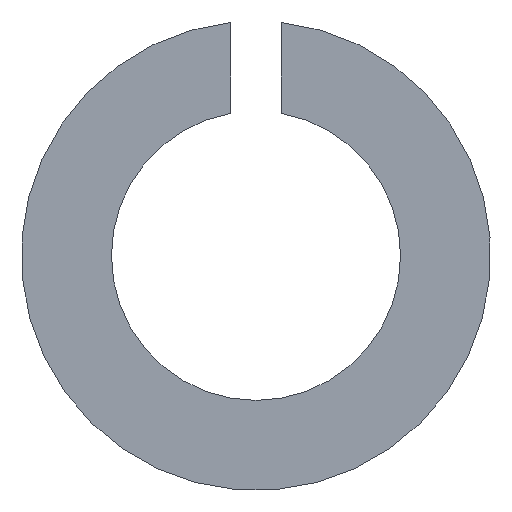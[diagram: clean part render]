
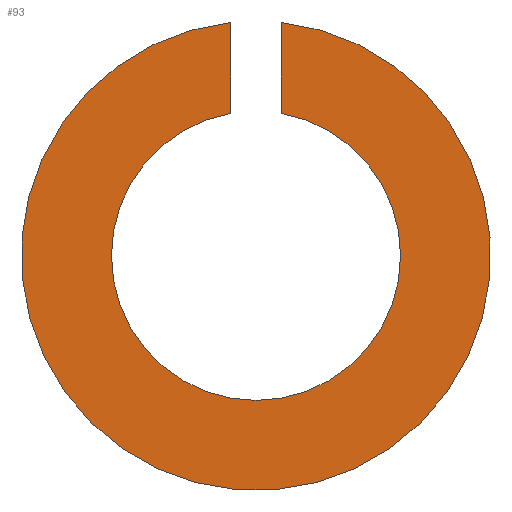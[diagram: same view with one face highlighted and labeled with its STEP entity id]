
A CAD part, left-side view. The second image highlights one B-rep face of the part: STEP entity #93.
In plain terms, the highlighted planar face has unit normal (-1, 0, 0).
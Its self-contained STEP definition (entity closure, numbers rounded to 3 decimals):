
#7 = ORIENTED_EDGE ( 'NONE', *, *, #123, .T. ) ;
#10 = VECTOR ( 'NONE', #178, 1000. ) ;
#11 = CARTESIAN_POINT ( 'NONE',  ( 37.6, 28., -81. ) ) ;
#13 = EDGE_LOOP ( 'NONE', ( #7, #138, #126, #84 ) ) ;
#14 = FACE_OUTER_BOUND ( 'NONE', #13, .T. ) ;
#20 = VERTEX_POINT ( 'NONE', #34 ) ;
#22 = DIRECTION ( 'NONE',  ( 0., 1., 0. ) ) ;
#34 = CARTESIAN_POINT ( 'NONE',  ( 37.6, 28.533, -77.997 ) ) ;
#46 = CARTESIAN_POINT ( 'NONE',  ( 37.6, 28.533, -76.079 ) ) ;
#55 = AXIS2_PLACEMENT_3D ( 'NONE', #11, #72, #211 ) ;
#57 = DIRECTION ( 'NONE',  ( 0., 0., 1. ) ) ;
#64 = CARTESIAN_POINT ( 'NONE',  ( 37.6, 28., -81. ) ) ;
#72 = DIRECTION ( 'NONE',  ( 1., 0., 0. ) ) ;
#84 = ORIENTED_EDGE ( 'NONE', *, *, #240, .T. ) ;
#90 = CIRCLE ( 'NONE', #55, 4.95 ) ;
#93 = ADVANCED_FACE ( 'NONE', ( #14 ), #96, .T. ) ;
#96 = PLANE ( 'NONE',  #179 ) ;
#107 = CARTESIAN_POINT ( 'NONE',  ( 37.6, 27.467, -81. ) ) ;
#110 = CARTESIAN_POINT ( 'NONE',  ( 37.6, 28.533, -81. ) ) ;
#117 = CARTESIAN_POINT ( 'NONE',  ( 37.6, 27.467, -77.997 ) ) ;
#123 = EDGE_CURVE ( 'NONE', #20, #202, #149, .T. ) ;
#126 = ORIENTED_EDGE ( 'NONE', *, *, #204, .T. ) ;
#138 = ORIENTED_EDGE ( 'NONE', *, *, #161, .F. ) ;
#140 = DIRECTION ( 'NONE',  ( 0., 0., -1. ) ) ;
#149 = LINE ( 'NONE', #110, #10 ) ;
#156 = LINE ( 'NONE', #107, #199 ) ;
#161 = EDGE_CURVE ( 'NONE', #171, #202, #90, .T. ) ;
#163 = CARTESIAN_POINT ( 'NONE',  ( 37.6, 32., -81. ) ) ;
#171 = VERTEX_POINT ( 'NONE', #225 ) ;
#178 = DIRECTION ( 'NONE',  ( 0., 0., 1. ) ) ;
#179 = AXIS2_PLACEMENT_3D ( 'NONE', #163, #223, #57 ) ;
#189 = DIRECTION ( 'NONE',  ( 1., 0., 0. ) ) ;
#198 = VERTEX_POINT ( 'NONE', #117 ) ;
#199 = VECTOR ( 'NONE', #140, 1000. ) ;
#202 = VERTEX_POINT ( 'NONE', #46 ) ;
#203 = CIRCLE ( 'NONE', #232, 3.05 ) ;
#204 = EDGE_CURVE ( 'NONE', #171, #198, #156, .T. ) ;
#211 = DIRECTION ( 'NONE',  ( 0., 1., 0. ) ) ;
#223 = DIRECTION ( 'NONE',  ( -1., 0., 0. ) ) ;
#225 = CARTESIAN_POINT ( 'NONE',  ( 37.6, 27.467, -76.079 ) ) ;
#232 = AXIS2_PLACEMENT_3D ( 'NONE', #64, #189, #22 ) ;
#240 = EDGE_CURVE ( 'NONE', #198, #20, #203, .T. ) ;
